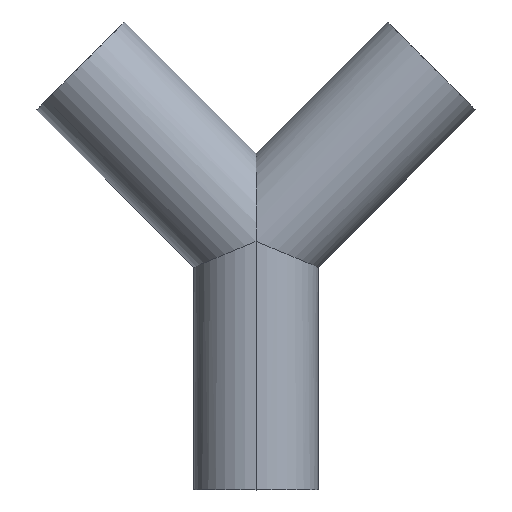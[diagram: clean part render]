
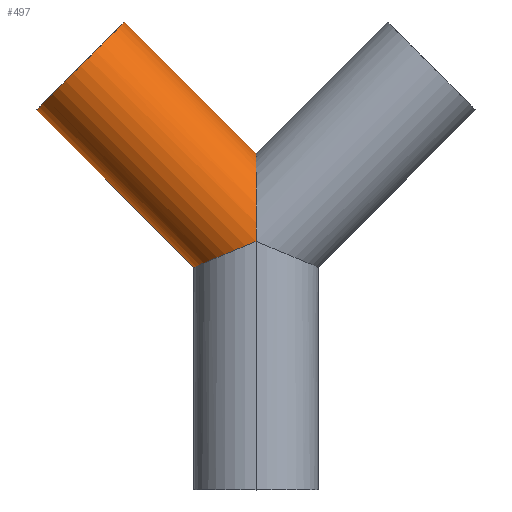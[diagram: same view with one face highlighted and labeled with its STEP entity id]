
A CAD part, top view. The second image highlights one B-rep face of the part: STEP entity #497.
In plain terms, the highlighted cylindrical face has radius 25.4 mm (diameter 50.8 mm), a partial arc.
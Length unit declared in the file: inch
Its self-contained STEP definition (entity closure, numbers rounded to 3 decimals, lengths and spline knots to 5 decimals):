
#20 = ORIENTED_EDGE ( 'NONE', *, *, #70, .F. ) ;
#22 = VERTEX_POINT ( 'NONE', #316 ) ;
#27 = EDGE_CURVE ( 'NONE', #342, #22, #335, .T. ) ;
#70 = EDGE_CURVE ( 'NONE', #146, #342, #493, .T. ) ;
#113 = CARTESIAN_POINT ( 'NONE',  ( -3.53553, 6.12132, 0. ) ) ;
#119 = CARTESIAN_POINT ( 'NONE',  ( 0., 4., 0. ) ) ;
#125 = DIRECTION ( 'NONE',  ( -0.707, -0.707, 0. ) ) ;
#127 = DIRECTION ( 'NONE',  ( -0.707, 0.707, 0. ) ) ;
#131 = CARTESIAN_POINT ( 'NONE',  ( -2.82843, 6.82843, 0. ) ) ;
#132 = VECTOR ( 'NONE', #203, 39.37008 ) ;
#138 = ORIENTED_EDGE ( 'NONE', *, *, #392, .T. ) ;
#146 = VERTEX_POINT ( 'NONE', #364 ) ;
#151 = VERTEX_POINT ( 'NONE', #248 ) ;
#159 = LINE ( 'NONE', #431, #132 ) ;
#160 = CARTESIAN_POINT ( 'NONE',  ( 0., 4.82843, 1. ) ) ;
#166 = CYLINDRICAL_SURFACE ( 'NONE', #419, 1. ) ;
#168 = ORIENTED_EDGE ( 'NONE', *, *, #481, .T. ) ;
#179 = CARTESIAN_POINT ( 'NONE',  ( -1., 3.58579, 0. ) ) ;
#203 = DIRECTION ( 'NONE',  ( -0.707, 0.707, 0. ) ) ;
#217 = CARTESIAN_POINT ( 'NONE',  ( -0.70711, 3.29289, 0. ) ) ;
#220 =( BOUNDED_CURVE ( )  B_SPLINE_CURVE ( 3, ( #229, #160, #472, #230 ),
 .UNSPECIFIED., .F., .F. ) 
 B_SPLINE_CURVE_WITH_KNOTS ( ( 4, 4 ),
 ( 4.71239, 6.28319 ),
 .UNSPECIFIED. ) 
 CURVE ( )  GEOMETRIC_REPRESENTATION_ITEM ( )  RATIONAL_B_SPLINE_CURVE ( ( 1., 0.805, 0.805, 1. ) ) 
 REPRESENTATION_ITEM ( '' )  );
#229 = CARTESIAN_POINT ( 'NONE',  ( 0., 4., 1. ) ) ;
#230 = CARTESIAN_POINT ( 'NONE',  ( 0., 5.41421, 0. ) ) ;
#247 = CARTESIAN_POINT ( 'NONE',  ( -0.58579, 3.75736, 1. ) ) ;
#248 = CARTESIAN_POINT ( 'NONE',  ( 0., 4., 1. ) ) ;
#249 =( BOUNDED_CURVE ( )  B_SPLINE_CURVE ( 3, ( #535, #247, #406, #179 ),
 .UNSPECIFIED., .F., .T. ) 
 B_SPLINE_CURVE_WITH_KNOTS ( ( 4, 4 ),
 ( 4.71239, 6.28319 ),
 .UNSPECIFIED. ) 
 CURVE ( )  GEOMETRIC_REPRESENTATION_ITEM ( )  RATIONAL_B_SPLINE_CURVE ( ( 1., 0.805, 0.805, 1. ) ) 
 REPRESENTATION_ITEM ( '' )  );
#269 = EDGE_CURVE ( 'NONE', #151, #146, #249, .T. ) ;
#308 = CARTESIAN_POINT ( 'NONE',  ( 0., 5.41421, 0. ) ) ;
#316 = CARTESIAN_POINT ( 'NONE',  ( -2.12132, 7.53553, 0. ) ) ;
#335 = CIRCLE ( 'NONE', #491, 1. ) ;
#342 = VERTEX_POINT ( 'NONE', #113 ) ;
#351 = DIRECTION ( 'NONE',  ( -0.707, -0.707, 0. ) ) ;
#358 = EDGE_LOOP ( 'NONE', ( #138, #168, #520, #20, #471 ) ) ;
#364 = CARTESIAN_POINT ( 'NONE',  ( -1., 3.58579, 0. ) ) ;
#375 = VERTEX_POINT ( 'NONE', #308 ) ;
#392 = EDGE_CURVE ( 'NONE', #151, #375, #220, .T. ) ;
#406 = CARTESIAN_POINT ( 'NONE',  ( -1., 3.58579, 0.58579 ) ) ;
#419 = AXIS2_PLACEMENT_3D ( 'NONE', #119, #480, #351 ) ;
#431 = CARTESIAN_POINT ( 'NONE',  ( 0.70711, 4.70711, 0. ) ) ;
#443 = DIRECTION ( 'NONE',  ( -0.707, 0.707, 0. ) ) ;
#458 = VECTOR ( 'NONE', #443, 39.37008 ) ;
#470 = FACE_OUTER_BOUND ( 'NONE', #358, .T. ) ;
#471 = ORIENTED_EDGE ( 'NONE', *, *, #269, .F. ) ;
#472 = CARTESIAN_POINT ( 'NONE',  ( 0., 5.41421, 0.58579 ) ) ;
#480 = DIRECTION ( 'NONE',  ( -0.707, 0.707, 0. ) ) ;
#481 = EDGE_CURVE ( 'NONE', #375, #22, #159, .T. ) ;
#491 = AXIS2_PLACEMENT_3D ( 'NONE', #131, #127, #125 ) ;
#493 = LINE ( 'NONE', #217, #458 ) ;
#497 = ADVANCED_FACE ( 'NONE', ( #470 ), #166, .T. ) ;
#520 = ORIENTED_EDGE ( 'NONE', *, *, #27, .F. ) ;
#535 = CARTESIAN_POINT ( 'NONE',  ( 0., 4., 1. ) ) ;
